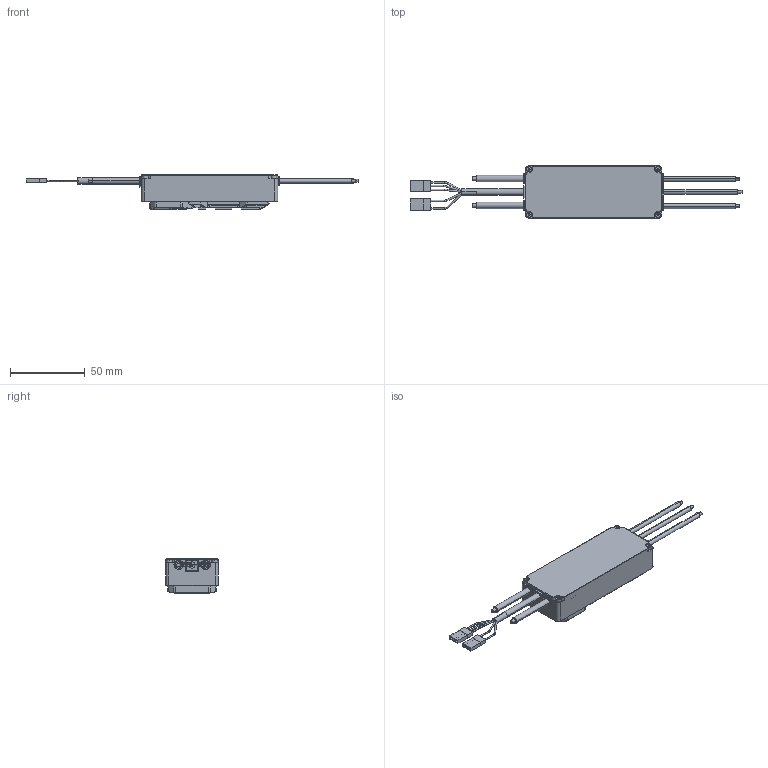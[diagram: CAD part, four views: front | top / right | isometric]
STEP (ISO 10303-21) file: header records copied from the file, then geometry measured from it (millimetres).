
FILE_DESCRIPTION((''),'2;1');
FILE_NAME('00HW5141-BLDCFOC-2KE','2026-03-18T18:35:39',('Lenovo'),(''),'CREO PARAMETRIC BY PTC INC, 2021284','CREO PARAMETRIC BY PTC INC, 2021284','');
FILE_SCHEMA(('CONFIG_CONTROL_DESIGN','SHAPE_APPEARANCE_LAYERS_GROUPS'));
Length unit declared in the file: millimetre
Products named in the file (1): 00HW5141-BLDCFOC-2KE
Bounding box: 222.4 x 35 x 23.2 mm (x, y, z)
Volume: 26681.2 mm3; surface area: 31764.2 mm2
Topology: 3 solids, 3 shells, 1312 faces, 3429 edges, 2193 vertices
Faces by surface type: plane 808, cylinder 350, cone 88, torus 42, bspline 24
Entity records: 53532 total; most frequent: CARTESIAN_POINT 9547, ORIENTED_EDGE 6858, DIRECTION 6733, EDGE_CURVE 3429, VECTOR 2475, LINE 2475, VERTEX_POINT 2193, AXIS2_PLACEMENT_3D 2129
